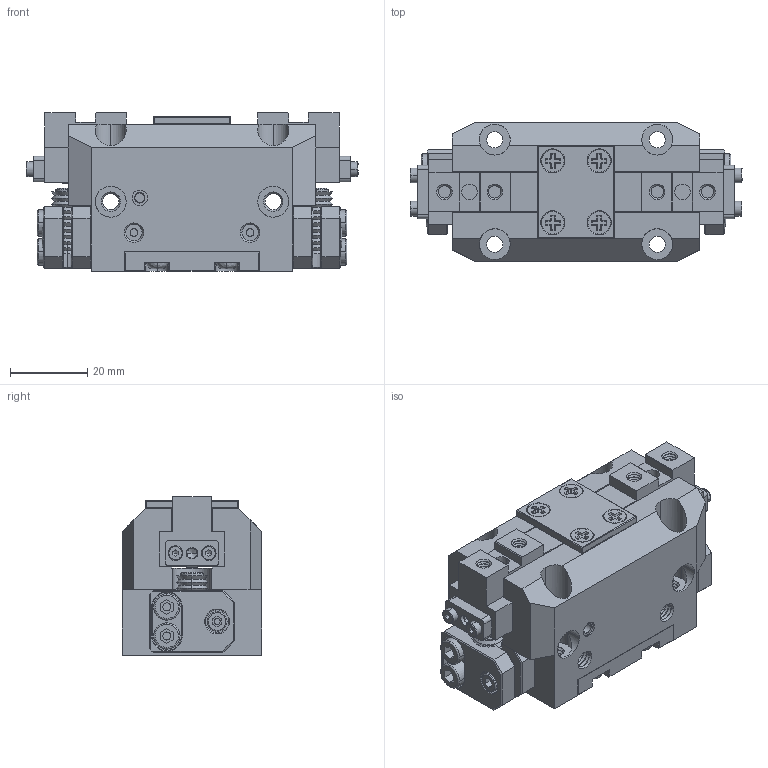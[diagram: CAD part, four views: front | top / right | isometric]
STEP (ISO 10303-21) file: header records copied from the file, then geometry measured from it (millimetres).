
FILE_DESCRIPTION (( 'STEP AP214' ), '1' );
FILE_NAME ('ST25.STEP', '2024-11-23T06:33:10', ( '' ), ( '' ), 'SwSTEP 2.0', 'SolidWorks 2023', '' );
FILE_SCHEMA (( 'AUTOMOTIVE_DESIGN' ));
Length unit declared in the file: millimetre
Products named in the file (1): ST25
Bounding box: 85.8 x 36 x 41 mm (x, y, z)
Volume: 71758.7 mm3; surface area: 39386.2 mm2
Topology: 37 solids, 37 shells, 2088 faces, 4827 edges, 2833 vertices
Faces by surface type: cone 1285, plane 560, cylinder 199, bspline 44
Entity records: 59930 total; most frequent: CARTESIAN_POINT 11477, DIRECTION 10760, ORIENTED_EDGE 9590, EDGE_CURVE 4795, AXIS2_PLACEMENT_3D 4080, VERTEX_POINT 2833, LINE 2600, VECTOR 2600
